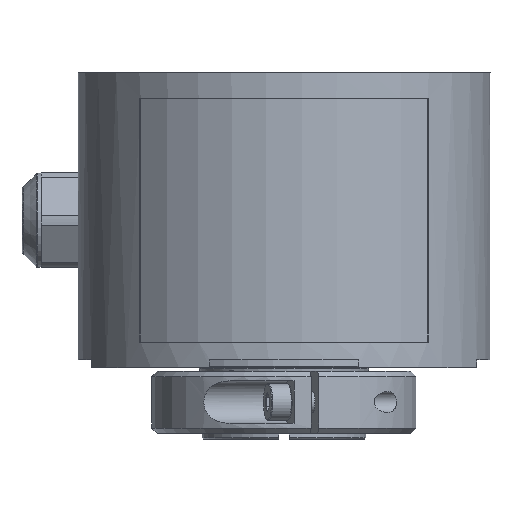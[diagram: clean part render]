
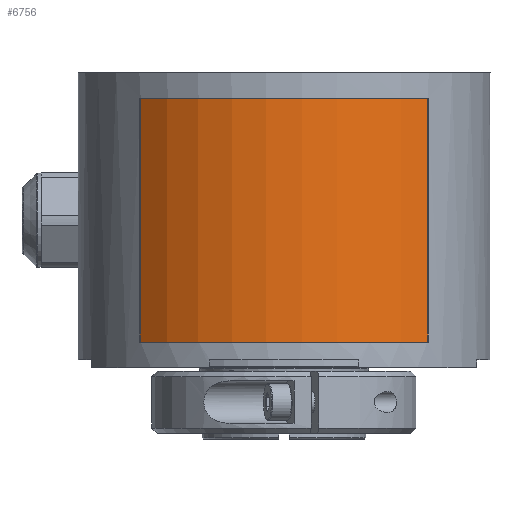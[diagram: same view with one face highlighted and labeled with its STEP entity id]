
A CAD part, front view. The second image highlights one B-rep face of the part: STEP entity #6756.
In plain terms, the highlighted cylindrical face has radius 39.2 mm (diameter 78.4 mm), a partial arc.
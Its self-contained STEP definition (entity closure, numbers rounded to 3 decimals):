
#1966 = CARTESIAN_POINT ( 'NONE',  ( 26.154, -33.101, -3.688 ) ) ;
#1971 = CARTESIAN_POINT ( 'NONE',  ( -28.308, -33.101, -3.688 ) ) ;
#1976 = DIRECTION ( 'NONE',  ( -1., 0., 0. ) ) ;
#1977 = DIRECTION ( 'NONE',  ( 0., 0., -1. ) ) ;
#1979 = CARTESIAN_POINT ( 'NONE',  ( -1.077, -4.903, -3.688 ) ) ;
#1980 = AXIS2_PLACEMENT_3D ( 'NONE', #1979, #1977, #1976 ) ;
#1981 = CIRCLE ( 'NONE', #1980, 39.2 ) ;
#1985 = DIRECTION ( 'NONE',  ( -1., 0., 0. ) ) ;
#1986 = DIRECTION ( 'NONE',  ( 0., 0., -1. ) ) ;
#1987 = AXIS2_PLACEMENT_3D ( 'NONE', #1999, #1986, #1985 ) ;
#1989 = CIRCLE ( 'NONE', #1987, 39.2 ) ;
#1991 = CARTESIAN_POINT ( 'NONE',  ( -28.308, -33.101, 42.312 ) ) ;
#1993 = CARTESIAN_POINT ( 'NONE',  ( 26.154, -33.101, 42.312 ) ) ;
#1999 = CARTESIAN_POINT ( 'NONE',  ( -1.077, -4.903, 42.312 ) ) ;
#2199 = CARTESIAN_POINT ( 'NONE',  ( -1.077, -4.903, 29.159 ) ) ;
#2229 = AXIS2_PLACEMENT_3D ( 'NONE', #2199, #2303, #2302 ) ;
#2240 = FACE_OUTER_BOUND ( 'NONE', #6751, .T. ) ;
#2265 = CYLINDRICAL_SURFACE ( 'NONE', #2229, 39.2 ) ;
#2266 = DIRECTION ( 'NONE',  ( 0., 0., -1. ) ) ;
#2267 = VECTOR ( 'NONE', #2266, 1000. ) ;
#2270 = CARTESIAN_POINT ( 'NONE',  ( -28.308, -33.101, 42.312 ) ) ;
#2271 = LINE ( 'NONE', #2270, #2267 ) ;
#2295 = DIRECTION ( 'NONE',  ( 0., 0., -1. ) ) ;
#2296 = VECTOR ( 'NONE', #2295, 1000. ) ;
#2297 = CARTESIAN_POINT ( 'NONE',  ( 26.154, -33.101, 42.312 ) ) ;
#2300 = LINE ( 'NONE', #2297, #2296 ) ;
#2302 = DIRECTION ( 'NONE',  ( -1., 0., 0. ) ) ;
#2303 = DIRECTION ( 'NONE',  ( 0., 0., -1. ) ) ;
#6691 = VERTEX_POINT ( 'NONE', #1971 ) ;
#6692 = VERTEX_POINT ( 'NONE', #1991 ) ;
#6694 = VERTEX_POINT ( 'NONE', #1966 ) ;
#6695 = EDGE_CURVE ( 'NONE', #6699, #6692, #1989, .T. ) ;
#6698 = EDGE_CURVE ( 'NONE', #6694, #6691, #1981, .T. ) ;
#6699 = VERTEX_POINT ( 'NONE', #1993 ) ;
#6751 = EDGE_LOOP ( 'NONE', ( #6757, #6753, #6754, #6758 ) ) ;
#6753 = ORIENTED_EDGE ( 'NONE', *, *, #6695, .T. ) ;
#6754 = ORIENTED_EDGE ( 'NONE', *, *, #6755, .T. ) ;
#6755 = EDGE_CURVE ( 'NONE', #6692, #6691, #2271, .T. ) ;
#6756 = ADVANCED_FACE ( 'NONE', ( #2240 ), #2265, .T. ) ;
#6757 = ORIENTED_EDGE ( 'NONE', *, *, #6761, .F. ) ;
#6758 = ORIENTED_EDGE ( 'NONE', *, *, #6698, .F. ) ;
#6761 = EDGE_CURVE ( 'NONE', #6699, #6694, #2300, .T. ) ;
